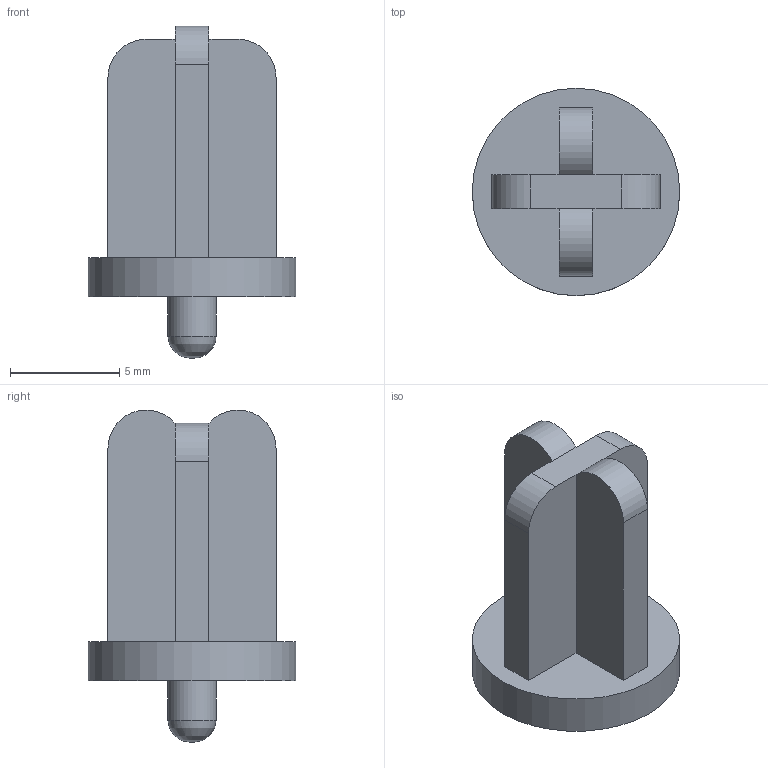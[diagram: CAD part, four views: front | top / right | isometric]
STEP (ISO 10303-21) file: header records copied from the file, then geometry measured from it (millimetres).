
FILE_DESCRIPTION(/* description */ (''),/* implementation_level */ '2;1');
FILE_NAME(/* name */ 'G:/Developer/Repos/AR-15-22lrMag/CMMG Replacement Parts/Baseplate Lock v3.step',/* time_stamp */ '2020-03-23T02:04:27-04:00',/* author */ (''),/* organization */ (''),/* preprocessor_version */ 'ST-DEVELOPER v18',/* originating_system */ 'Autodesk Translation Framework v8.12.0.6',/* authorisation */ '');
FILE_SCHEMA (('AUTOMOTIVE_DESIGN { 1 0 10303 214 3 1 1 }'));
Length unit declared in the file: millimetre
Products named in the file (1): Baseplate Lock
Bounding box: 9.5 x 9.5 x 15.21 mm (x, y, z)
Volume: 352.7 mm3; surface area: 518.4 mm2
Topology: 1 solids, 1 shells, 23 faces, 54 edges, 35 vertices
Faces by surface type: plane 16, cylinder 6, bspline 1
Full cylindrical faces by diameter (mm): 2.2 x1, 9.5 x1
Entity records: 715 total; most frequent: CARTESIAN_POINT 139, DIRECTION 116, ORIENTED_EDGE 108, EDGE_CURVE 54, AXIS2_PLACEMENT_3D 39, LINE 38, VECTOR 38, VERTEX_POINT 35
